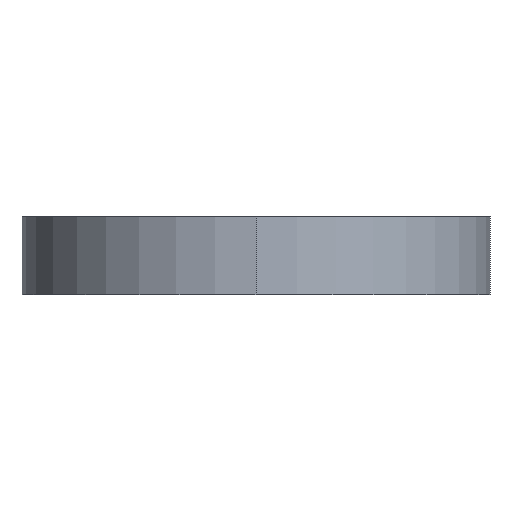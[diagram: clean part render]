
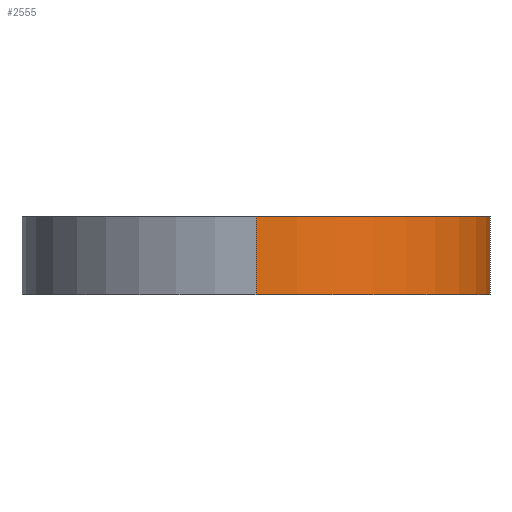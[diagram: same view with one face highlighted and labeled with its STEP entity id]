
A CAD part, left-side view. The second image highlights one B-rep face of the part: STEP entity #2555.
In plain terms, the highlighted cylindrical face has radius 45 mm (diameter 90 mm), a partial arc.
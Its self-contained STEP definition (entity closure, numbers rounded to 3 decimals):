
#107 = VERTEX_POINT ( 'NONE', #999 ) ;
#109 = EDGE_LOOP ( 'NONE', ( #2602, #2603, #2546, #414 ) ) ;
#187 = EDGE_CURVE ( 'NONE', #2553, #188, #1125, .T. ) ;
#188 = VERTEX_POINT ( 'NONE', #1115 ) ;
#408 = EDGE_CURVE ( 'NONE', #2553, #2547, #1468, .T. ) ;
#414 = ORIENTED_EDGE ( 'NONE', *, *, #710, .F. ) ;
#710 = EDGE_CURVE ( 'NONE', #188, #107, #1983, .T. ) ;
#999 = CARTESIAN_POINT ( 'NONE',  ( 0., -45., -7.5 ) ) ;
#1112 = AXIS2_PLACEMENT_3D ( 'NONE', #1130, #1117, #1171 ) ;
#1115 = CARTESIAN_POINT ( 'NONE',  ( 0., -45., 7.5 ) ) ;
#1117 = DIRECTION ( 'NONE',  ( 0., 0., 1. ) ) ;
#1125 = CIRCLE ( 'NONE', #1112, 45. ) ;
#1130 = CARTESIAN_POINT ( 'NONE',  ( 0., 0., 7.5 ) ) ;
#1171 = DIRECTION ( 'NONE',  ( 1., 0., 0. ) ) ;
#1445 = CARTESIAN_POINT ( 'NONE',  ( -45., 0., 7.5 ) ) ;
#1466 = DIRECTION ( 'NONE',  ( 0., 0., -1. ) ) ;
#1467 = VECTOR ( 'NONE', #1466, 1000. ) ;
#1468 = LINE ( 'NONE', #1445, #1467 ) ;
#1981 = DIRECTION ( 'NONE',  ( 0., 0., -1. ) ) ;
#1982 = VECTOR ( 'NONE', #1981, 1000. ) ;
#1983 = LINE ( 'NONE', #1990, #1982 ) ;
#1990 = CARTESIAN_POINT ( 'NONE',  ( 0., -45., 7.5 ) ) ;
#2073 = CARTESIAN_POINT ( 'NONE',  ( -45., 0., -7.5 ) ) ;
#2298 = CIRCLE ( 'NONE', #2320, 45. ) ;
#2318 = DIRECTION ( 'NONE',  ( 1., 0., 0. ) ) ;
#2319 = DIRECTION ( 'NONE',  ( 0., 0., 1. ) ) ;
#2320 = AXIS2_PLACEMENT_3D ( 'NONE', #2321, #2319, #2318 ) ;
#2321 = CARTESIAN_POINT ( 'NONE',  ( 0., 0., -7.5 ) ) ;
#2353 = DIRECTION ( 'NONE',  ( -1., 0., 0. ) ) ;
#2356 = CARTESIAN_POINT ( 'NONE',  ( 0., 0., 7.5 ) ) ;
#2357 = AXIS2_PLACEMENT_3D ( 'NONE', #2356, #2365, #2353 ) ;
#2360 = CYLINDRICAL_SURFACE ( 'NONE', #2357, 45. ) ;
#2364 = FACE_OUTER_BOUND ( 'NONE', #109, .T. ) ;
#2365 = DIRECTION ( 'NONE',  ( 0., 0., -1. ) ) ;
#2367 = CARTESIAN_POINT ( 'NONE',  ( -45., 0., 7.5 ) ) ;
#2544 = EDGE_CURVE ( 'NONE', #2547, #107, #2298, .T. ) ;
#2546 = ORIENTED_EDGE ( 'NONE', *, *, #2544, .T. ) ;
#2547 = VERTEX_POINT ( 'NONE', #2073 ) ;
#2553 = VERTEX_POINT ( 'NONE', #2367 ) ;
#2555 = ADVANCED_FACE ( 'NONE', ( #2364 ), #2360, .T. ) ;
#2602 = ORIENTED_EDGE ( 'NONE', *, *, #187, .F. ) ;
#2603 = ORIENTED_EDGE ( 'NONE', *, *, #408, .T. ) ;
